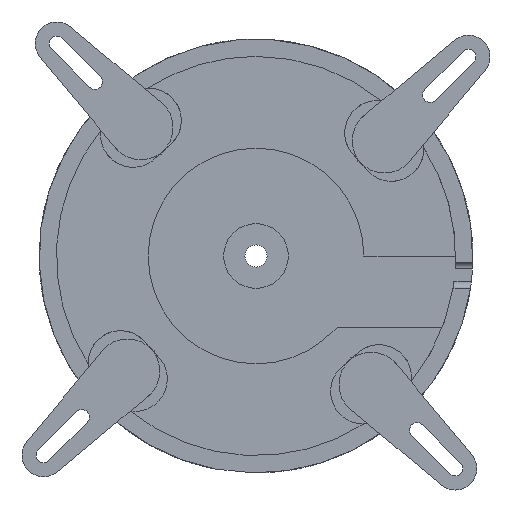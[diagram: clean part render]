
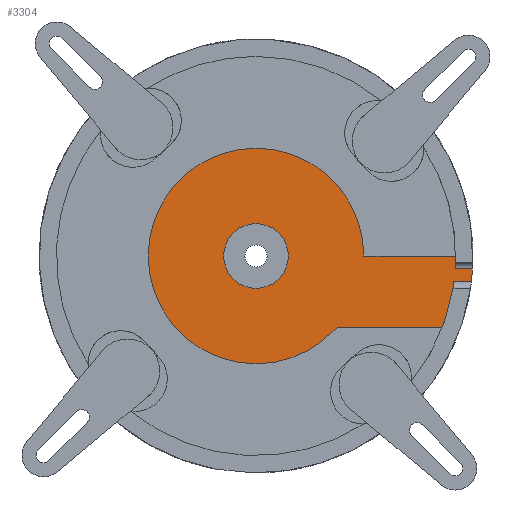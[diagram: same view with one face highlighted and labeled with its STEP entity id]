
A CAD part, front view. The second image highlights one B-rep face of the part: STEP entity #3304.
In plain terms, the highlighted planar face has unit normal (0, -1, 0).
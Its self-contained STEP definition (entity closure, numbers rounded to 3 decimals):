
#925=FACE_BOUND('',#5066,.T.);
#926=FACE_BOUND('',#5067,.T.);
#1588=LINE('',#19703,#2468);
#1591=LINE('',#19711,#2471);
#1607=LINE('',#19984,#2487);
#1608=LINE('',#19989,#2488);
#2468=VECTOR('',#15543,1.);
#2471=VECTOR('',#15552,1.);
#2487=VECTOR('',#15606,1.);
#2488=VECTOR('',#15613,1.);
#3304=ADVANCED_FACE('',(#925,#926),#3870,.T.);
#3870=PLANE('',#13326);
#5066=EDGE_LOOP('',(#6974,#6975,#6976,#6977,#6978,#6979,#6980,#6981,#6982,
#6983));
#5067=EDGE_LOOP('',(#6984,#6985));
#6974=ORIENTED_EDGE('',*,*,#11039,.T.);
#6975=ORIENTED_EDGE('',*,*,#11073,.T.);
#6976=ORIENTED_EDGE('',*,*,#11074,.T.);
#6977=ORIENTED_EDGE('',*,*,#11040,.T.);
#6978=ORIENTED_EDGE('',*,*,#11050,.T.);
#6979=ORIENTED_EDGE('',*,*,#11075,.T.);
#6980=ORIENTED_EDGE('',*,*,#10822,.F.);
#6981=ORIENTED_EDGE('',*,*,#11072,.T.);
#6982=ORIENTED_EDGE('',*,*,#11033,.T.);
#6983=ORIENTED_EDGE('',*,*,#11036,.T.);
#6984=ORIENTED_EDGE('',*,*,#11076,.T.);
#6985=ORIENTED_EDGE('',*,*,#11046,.T.);
#9503=VERTEX_POINT('',#19149);
#9504=VERTEX_POINT('',#19151);
#9640=VERTEX_POINT('',#19691);
#9641=VERTEX_POINT('',#19693);
#9643=VERTEX_POINT('',#19704);
#9644=VERTEX_POINT('',#19708);
#9645=VERTEX_POINT('',#19712);
#9646=VERTEX_POINT('',#19713);
#9648=VERTEX_POINT('',#19719);
#9650=VERTEX_POINT('',#19723);
#9653=VERTEX_POINT('',#19736);
#9656=VERTEX_POINT('',#19987);
#10822=EDGE_CURVE('',#9503,#9504,#12302,.T.);
#11033=EDGE_CURVE('',#9641,#9640,#12405,.T.);
#11036=EDGE_CURVE('',#9640,#9643,#1588,.T.);
#11039=EDGE_CURVE('',#9643,#9644,#12406,.T.);
#11040=EDGE_CURVE('',#9645,#9646,#1591,.T.);
#11046=EDGE_CURVE('',#9648,#9650,#12408,.T.);
#11050=EDGE_CURVE('',#9646,#9653,#12410,.T.);
#11072=EDGE_CURVE('',#9503,#9641,#1607,.T.);
#11073=EDGE_CURVE('',#9644,#9656,#12414,.T.);
#11074=EDGE_CURVE('',#9656,#9645,#12415,.T.);
#11075=EDGE_CURVE('',#9653,#9504,#1608,.T.);
#11076=EDGE_CURVE('',#9650,#9648,#12416,.T.);
#12302=CIRCLE('',#13132,100.5);
#12405=CIRCLE('',#13298,92.5);
#12406=CIRCLE('',#13301,50.);
#12408=CIRCLE('',#13305,15.);
#12410=CIRCLE('',#13308,92.5);
#12414=CIRCLE('',#13323,50.);
#12415=CIRCLE('',#13324,50.);
#12416=CIRCLE('',#13325,15.);
#13132=AXIS2_PLACEMENT_3D('',#19150,#15115,#15116);
#13298=AXIS2_PLACEMENT_3D('',#19692,#15538,#15539);
#13301=AXIS2_PLACEMENT_3D('',#19709,#15548,#15549);
#13305=AXIS2_PLACEMENT_3D('',#19724,#15561,#15562);
#13308=AXIS2_PLACEMENT_3D('',#19737,#15568,#15569);
#13323=AXIS2_PLACEMENT_3D('',#19986,#15609,#15610);
#13324=AXIS2_PLACEMENT_3D('',#19988,#15611,#15612);
#13325=AXIS2_PLACEMENT_3D('',#19990,#15614,#15615);
#13326=AXIS2_PLACEMENT_3D('',#19991,#15616,#15617);
#15115=DIRECTION('',(0.,1.,0.));
#15116=DIRECTION('',(0.,0.,-1.));
#15538=DIRECTION('',(0.,-1.,0.));
#15539=DIRECTION('',(0.,0.,1.));
#15543=DIRECTION('',(-1.,0.,0.));
#15548=DIRECTION('',(0.,-1.,0.));
#15549=DIRECTION('',(0.,0.,-1.));
#15552=DIRECTION('',(1.,0.,0.));
#15561=DIRECTION('',(0.,1.,0.));
#15562=DIRECTION('',(0.,0.,-1.));
#15568=DIRECTION('',(0.,-1.,0.));
#15569=DIRECTION('',(0.,0.,1.));
#15606=DIRECTION('',(-1.,0.,0.));
#15609=DIRECTION('',(0.,-1.,0.));
#15610=DIRECTION('',(0.,0.,-1.));
#15611=DIRECTION('',(0.,-1.,0.));
#15612=DIRECTION('',(0.,0.,-1.));
#15613=DIRECTION('',(1.,0.,0.));
#15614=DIRECTION('',(0.,1.,0.));
#15615=DIRECTION('',(0.,0.,-1.));
#15616=DIRECTION('',(0.,-1.,0.));
#15617=DIRECTION('',(0.,0.,-1.));
#19149=CARTESIAN_POINT('',(34.523,-60.005,-6.003));
#19150=CARTESIAN_POINT('',(-65.798,-60.005,-0.003));
#19151=CARTESIAN_POINT('',(33.983,-60.005,-12.003));
#19691=CARTESIAN_POINT('',(26.702,-60.005,-0.003));
#19692=CARTESIAN_POINT('',(-65.798,-60.005,-0.003));
#19693=CARTESIAN_POINT('',(26.508,-60.005,-6.003));
#19703=CARTESIAN_POINT('',(-65.798,-60.005,-0.003));
#19704=CARTESIAN_POINT('',(-15.798,-60.005,-0.003));
#19708=CARTESIAN_POINT('',(-65.798,-60.005,49.997));
#19709=CARTESIAN_POINT('',(-65.798,-60.005,-0.003));
#19711=CARTESIAN_POINT('',(-65.798,-60.005,-33.003));
#19712=CARTESIAN_POINT('',(-28.234,-60.005,-33.003));
#19713=CARTESIAN_POINT('',(20.616,-60.005,-33.003));
#19719=CARTESIAN_POINT('',(-65.798,-60.005,14.997));
#19723=CARTESIAN_POINT('',(-65.798,-60.005,-15.003));
#19724=CARTESIAN_POINT('',(-65.798,-60.005,-0.003));
#19736=CARTESIAN_POINT('',(25.921,-60.005,-12.003));
#19737=CARTESIAN_POINT('',(-65.798,-60.005,-0.003));
#19984=CARTESIAN_POINT('',(-65.798,-60.005,-6.003));
#19986=CARTESIAN_POINT('',(-65.798,-60.005,-0.003));
#19987=CARTESIAN_POINT('',(-65.798,-60.005,-50.003));
#19988=CARTESIAN_POINT('',(-65.798,-60.005,-0.003));
#19989=CARTESIAN_POINT('',(57.622,-60.005,-12.003));
#19990=CARTESIAN_POINT('',(-65.798,-60.005,-0.003));
#19991=CARTESIAN_POINT('',(-65.798,-60.005,-0.003));
